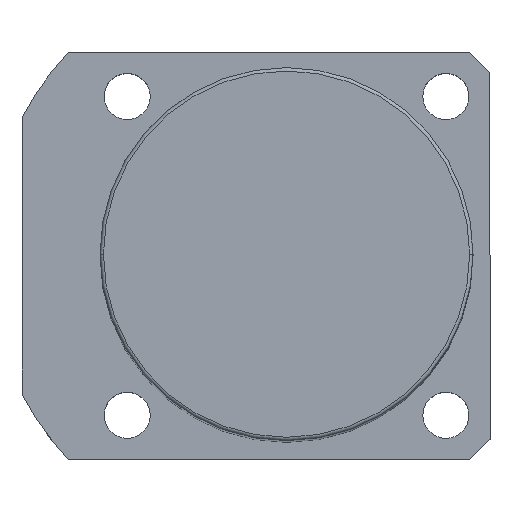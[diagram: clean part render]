
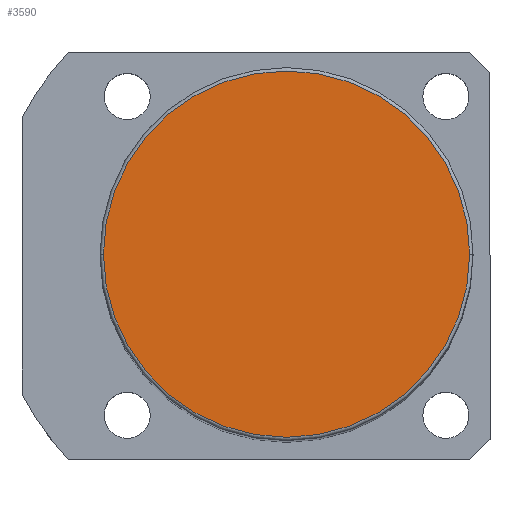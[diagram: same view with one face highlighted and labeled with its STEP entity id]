
A CAD part, top view. The second image highlights one B-rep face of the part: STEP entity #3590.
In plain terms, the highlighted planar face has unit normal (0, 0, 1).
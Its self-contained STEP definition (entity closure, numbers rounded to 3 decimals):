
#73 = DIRECTION ( 'NONE',  ( 0., 0., 1. ) ) ;
#536 = ORIENTED_EDGE ( 'NONE', *, *, #627, .T. ) ;
#627 = EDGE_CURVE ( 'NONE', #1647, #842, #3291, .T. ) ;
#842 = VERTEX_POINT ( 'NONE', #4699 ) ;
#942 = EDGE_CURVE ( 'NONE', #842, #1647, #4648, .T. ) ;
#1079 = PLANE ( 'NONE',  #2547 ) ;
#1297 = AXIS2_PLACEMENT_3D ( 'NONE', #1952, #1993, #2031 ) ;
#1334 = DIRECTION ( 'NONE',  ( 1., 0., 0. ) ) ;
#1467 = DIRECTION ( 'NONE',  ( 0., 0., 1. ) ) ;
#1647 = VERTEX_POINT ( 'NONE', #4854 ) ;
#1656 = AXIS2_PLACEMENT_3D ( 'NONE', #3571, #73, #1334 ) ;
#1952 = CARTESIAN_POINT ( 'NONE',  ( 0., 0., 156. ) ) ;
#1993 = DIRECTION ( 'NONE',  ( 0., 0., 1. ) ) ;
#2031 = DIRECTION ( 'NONE',  ( 1., 0., 0. ) ) ;
#2335 = EDGE_LOOP ( 'NONE', ( #536, #2867 ) ) ;
#2547 = AXIS2_PLACEMENT_3D ( 'NONE', #4632, #1467, #4256 ) ;
#2867 = ORIENTED_EDGE ( 'NONE', *, *, #942, .T. ) ;
#3291 = CIRCLE ( 'NONE', #1656, 27. ) ;
#3571 = CARTESIAN_POINT ( 'NONE',  ( 0., 0., 156. ) ) ;
#3590 = ADVANCED_FACE ( 'NONE', ( #3949 ), #1079, .T. ) ;
#3949 = FACE_OUTER_BOUND ( 'NONE', #2335, .T. ) ;
#4256 = DIRECTION ( 'NONE',  ( 1., 0., 0. ) ) ;
#4632 = CARTESIAN_POINT ( 'NONE',  ( 0., 0., 156. ) ) ;
#4648 = CIRCLE ( 'NONE', #1297, 27. ) ;
#4699 = CARTESIAN_POINT ( 'NONE',  ( -27., 0., 156. ) ) ;
#4854 = CARTESIAN_POINT ( 'NONE',  ( 27., 0., 156. ) ) ;
